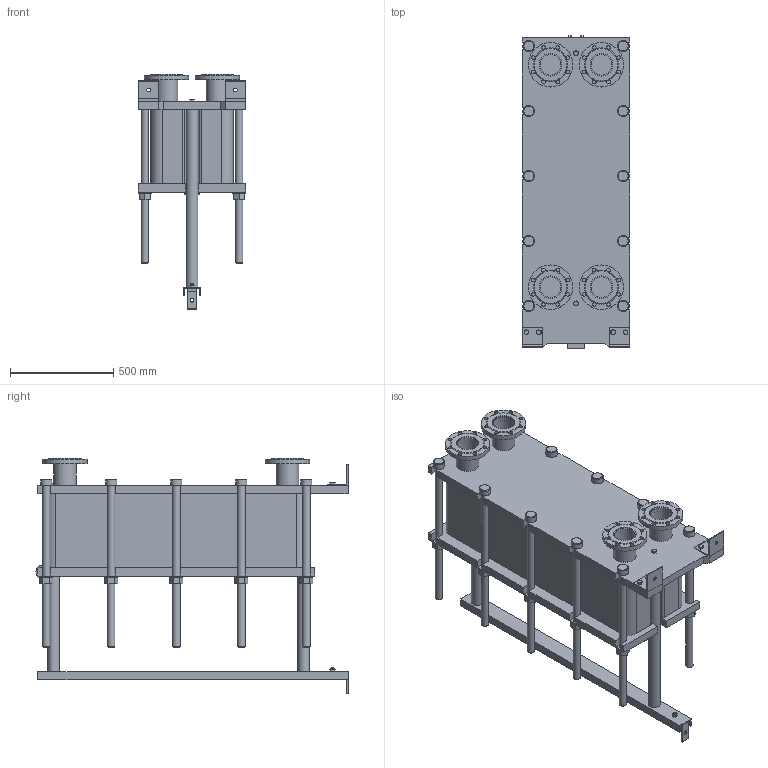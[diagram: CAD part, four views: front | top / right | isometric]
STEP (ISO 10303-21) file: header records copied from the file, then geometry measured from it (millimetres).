
FILE_DESCRIPTION(/* description */ (''),/* implementation_level */ '2;1');
FILE_NAME(/* name */ 'C:\Users\zhuro\Desktop\ENCO\TO\ЭН-04\ЭН-0,5-04-104-1.stp',/* time_stamp */ '2022-06-06T10:54:23+03:00',/* author */ ('zhuro'),/* organization */ (''),/* preprocessor_version */ 'ST-DEVELOPER v18.1',/* originating_system */ 'Autodesk Inventor 2022',/* authorisation */ '');
FILE_SCHEMA (('AUTOMOTIVE_DESIGN { 1 0 10303 214 3 1 1 }'));
Length unit declared in the file: millimetre
Products named in the file (1): ЭН-0,5-04-104-1
Bounding box: 520 x 1510 x 1137 mm (x, y, z)
Volume: 250733652.4 mm3; surface area: 8443222.3 mm2
Topology: 45 solids, 45 shells, 668 faces, 1611 edges, 1048 vertices
Faces by surface type: plane 457, cylinder 166, cone 39, torus 6
Full cylindrical faces by diameter (mm): 8 x4, 10 x2, 16 x8, 18 x35, 36 x25, 40 x2, 42 x1, 45 x4, 54 x10, 57 x2, 60 x10, 68 x2, 100 x4, 110 x8, 215 x4
Entity records: 23607 total; most frequent: CARTESIAN_POINT 7348, DIRECTION 3371, ORIENTED_EDGE 3142, EDGE_CURVE 1571, AXIS2_PLACEMENT_3D 1199, VERTEX_POINT 1044, LINE 973, VECTOR 973
